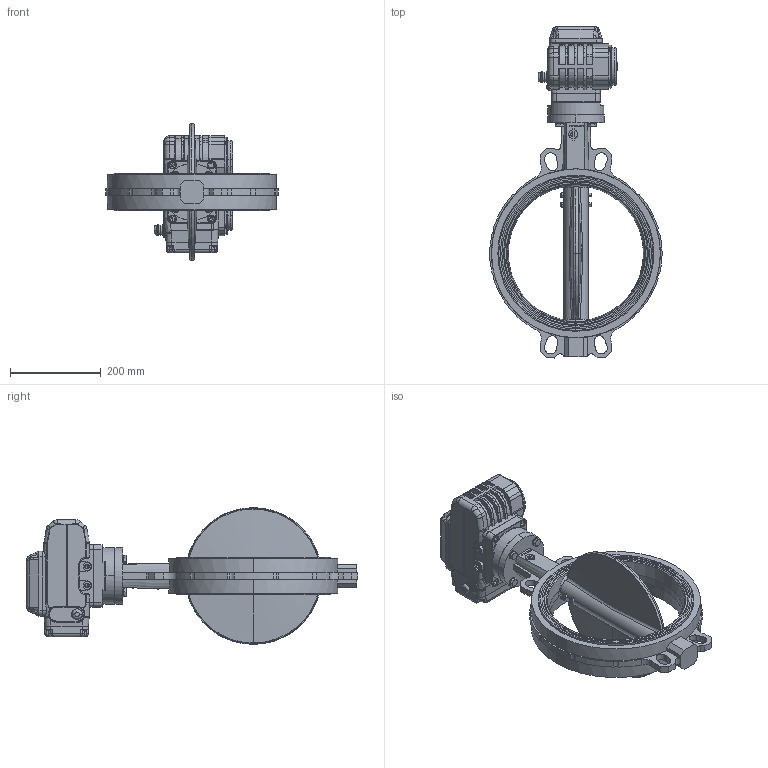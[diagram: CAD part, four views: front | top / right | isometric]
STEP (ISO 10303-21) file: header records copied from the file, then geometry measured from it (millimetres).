
FILE_DESCRIPTION (( 'STEP AP214' ), '1' );
FILE_NAME ('VPG444X-NX4XX0300.step', '2022-07-06T07:59:17', ( '' ), ( '' ), 'SwSTEP 2.0', 'SolidWorks 2020', '' );
FILE_SCHEMA (( 'AUTOMOTIVE_DESIGN' ));
Length unit declared in the file: millimetre
Products named in the file (1): VPG444X-NX4XX0300
Bounding box: 379.52 x 731.69 x 301.6 mm (x, y, z)
Surface area: 763605 mm2 (no closed solid volume)
Topology: 0 solids, 55 shells, 1212 faces, 5632 edges, 4402 vertices
Faces by surface type: cylinder 439, plane 413, bspline 238, cone 77, torus 45
Entity records: 100079 total; most frequent: CARTESIAN_POINT 45512, ORIENTED_EDGE 8254, DIRECTION 7139, EDGE_CURVE 5606, VERTEX_POINT 4402, LINE 2941, VECTOR 2941, AXIS2_PLACEMENT_3D 2099
